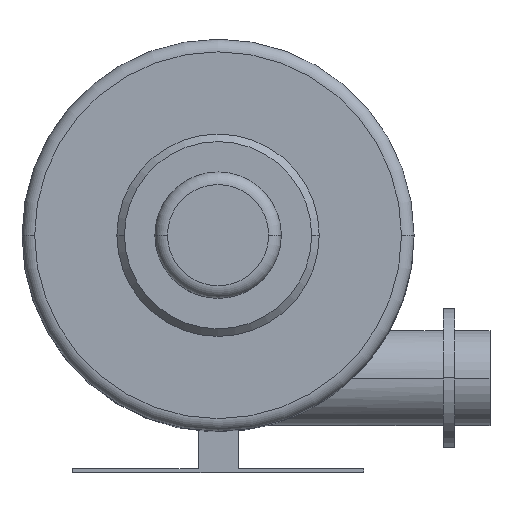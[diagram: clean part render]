
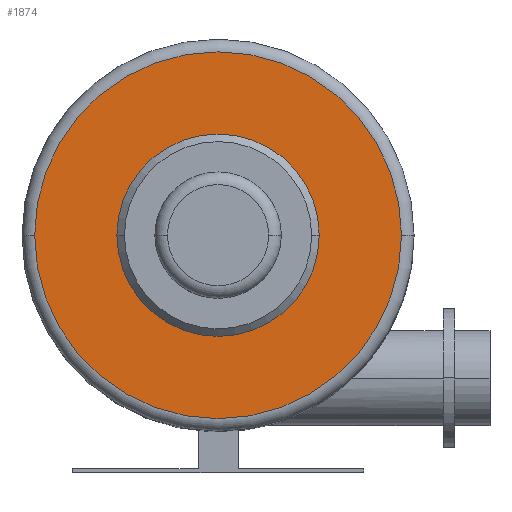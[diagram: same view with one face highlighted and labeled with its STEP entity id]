
A CAD part, top view. The second image highlights one B-rep face of the part: STEP entity #1874.
In plain terms, the highlighted planar face has unit normal (0, 0, 1).
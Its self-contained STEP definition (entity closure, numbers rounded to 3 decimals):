
#17 = ORIENTED_EDGE ( 'NONE', *, *, #157, .F. ) ;
#43 = ORIENTED_EDGE ( 'NONE', *, *, #478, .F. ) ;
#51 = EDGE_CURVE ( 'NONE', #1485, #1345, #762, .T. ) ;
#67 = CARTESIAN_POINT ( 'NONE',  ( 145., 0., 262. ) ) ;
#70 = DIRECTION ( 'NONE',  ( 0., 0., 1. ) ) ;
#72 = ORIENTED_EDGE ( 'NONE', *, *, #476, .T. ) ;
#81 = CARTESIAN_POINT ( 'NONE',  ( 0., 0., 262. ) ) ;
#143 = ORIENTED_EDGE ( 'NONE', *, *, #51, .T. ) ;
#157 = EDGE_CURVE ( 'NONE', #350, #1436, #2074, .T. ) ;
#272 = DIRECTION ( 'NONE',  ( 1., 0., 0. ) ) ;
#337 = CARTESIAN_POINT ( 'NONE',  ( 0., 0., 262. ) ) ;
#350 = VERTEX_POINT ( 'NONE', #1954 ) ;
#476 = EDGE_CURVE ( 'NONE', #1345, #1485, #1383, .T. ) ;
#478 = EDGE_CURVE ( 'NONE', #1436, #350, #1797, .T. ) ;
#719 = FACE_OUTER_BOUND ( 'NONE', #1297, .T. ) ;
#731 = AXIS2_PLACEMENT_3D ( 'NONE', #1145, #70, #1322 ) ;
#762 = CIRCLE ( 'NONE', #1881, 145. ) ;
#911 = DIRECTION ( 'NONE',  ( 0., 0., 1. ) ) ;
#965 = CARTESIAN_POINT ( 'NONE',  ( -145., 0., 262. ) ) ;
#983 = DIRECTION ( 'NONE',  ( 0., 0., 1. ) ) ;
#992 = DIRECTION ( 'NONE',  ( 1., 0., 0. ) ) ;
#1097 = EDGE_LOOP ( 'NONE', ( #43, #17 ) ) ;
#1145 = CARTESIAN_POINT ( 'NONE',  ( 0., 0., 262. ) ) ;
#1297 = EDGE_LOOP ( 'NONE', ( #143, #72 ) ) ;
#1307 = CARTESIAN_POINT ( 'NONE',  ( -80., 0., 262. ) ) ;
#1322 = DIRECTION ( 'NONE',  ( 1., 0., 0. ) ) ;
#1323 = AXIS2_PLACEMENT_3D ( 'NONE', #81, #1329, #272 ) ;
#1329 = DIRECTION ( 'NONE',  ( 0., 0., 1. ) ) ;
#1332 = AXIS2_PLACEMENT_3D ( 'NONE', #337, #1537, #992 ) ;
#1345 = VERTEX_POINT ( 'NONE', #965 ) ;
#1383 = CIRCLE ( 'NONE', #1332, 145. ) ;
#1436 = VERTEX_POINT ( 'NONE', #1307 ) ;
#1485 = VERTEX_POINT ( 'NONE', #67 ) ;
#1537 = DIRECTION ( 'NONE',  ( 0., 0., 1. ) ) ;
#1549 = FACE_BOUND ( 'NONE', #1097, .T. ) ;
#1719 = AXIS2_PLACEMENT_3D ( 'NONE', #1895, #911, #2049 ) ;
#1797 = CIRCLE ( 'NONE', #1323, 80. ) ;
#1874 = ADVANCED_FACE ( 'NONE', ( #719, #1549 ), #2106, .T. ) ;
#1881 = AXIS2_PLACEMENT_3D ( 'NONE', #1956, #983, #2103 ) ;
#1895 = CARTESIAN_POINT ( 'NONE',  ( 0., 0., 262. ) ) ;
#1954 = CARTESIAN_POINT ( 'NONE',  ( 80., 0., 262. ) ) ;
#1956 = CARTESIAN_POINT ( 'NONE',  ( 0., 0., 262. ) ) ;
#2049 = DIRECTION ( 'NONE',  ( 1., 0., 0. ) ) ;
#2074 = CIRCLE ( 'NONE', #1719, 80. ) ;
#2103 = DIRECTION ( 'NONE',  ( 1., 0., 0. ) ) ;
#2106 = PLANE ( 'NONE',  #731 ) ;
